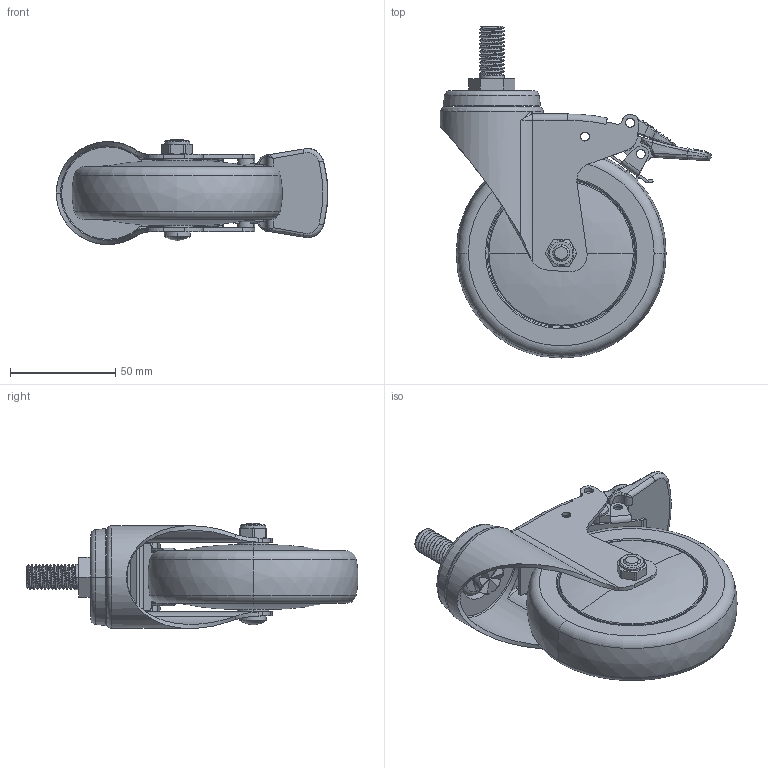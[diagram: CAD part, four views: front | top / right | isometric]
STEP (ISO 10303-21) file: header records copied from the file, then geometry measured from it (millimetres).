
FILE_DESCRIPTION((''),'2;1');
FILE_NAME('37144H_ASM','2026-07-14T',('Lenovo'),(''),'PRO/ENGINEER BY PARAMETRIC TECHNOLOGY CORPORATION, 2010280','PRO/ENGINEER BY PARAMETRIC TECHNOLOGY CORPORATION, 2010280','');
FILE_SCHEMA(('CONFIG_CONTROL_DESIGN'));
Length unit declared in the file: millimetre
Products named in the file (11): 3714-321; 360-23-M12X25; 360-03; 370-64; 371-64; 3714-401; 374-907; 374-69A; 350-33A; 300-34; 37144H_ASM
Assembly tree (11 placements, depth 2):
  37144H_ASM
    3714-321
    360-23-M12X25
    360-03
    370-64
    371-64
    3714-401
    374-907
    374-69A  x2
    350-33A
    300-34
Bounding box: 129.04 x 157.9 x 49.97 mm (x, y, z)
Volume: 189599.5 mm3; surface area: 94169.4 mm2
Topology: 11 solids, 11 shells, 843 faces, 2132 edges, 1340 vertices
Faces by surface type: plane 341, cylinder 228, bspline 136, torus 87, cone 49, sphere 2
Entity records: 35830 total; most frequent: CARTESIAN_POINT 16799, ORIENTED_EDGE 4128, DIRECTION 3619, EDGE_CURVE 2064, AXIS2_PLACEMENT_3D 1317, VERTEX_POINT 1302, VECTOR 985, LINE 985
